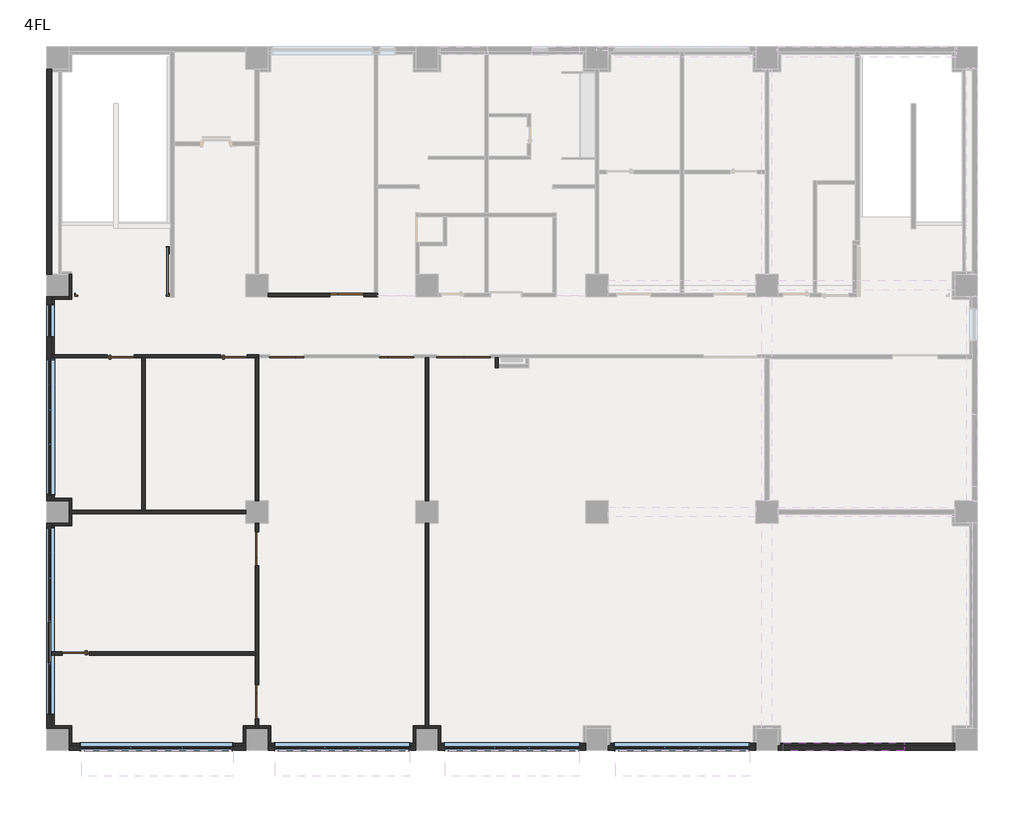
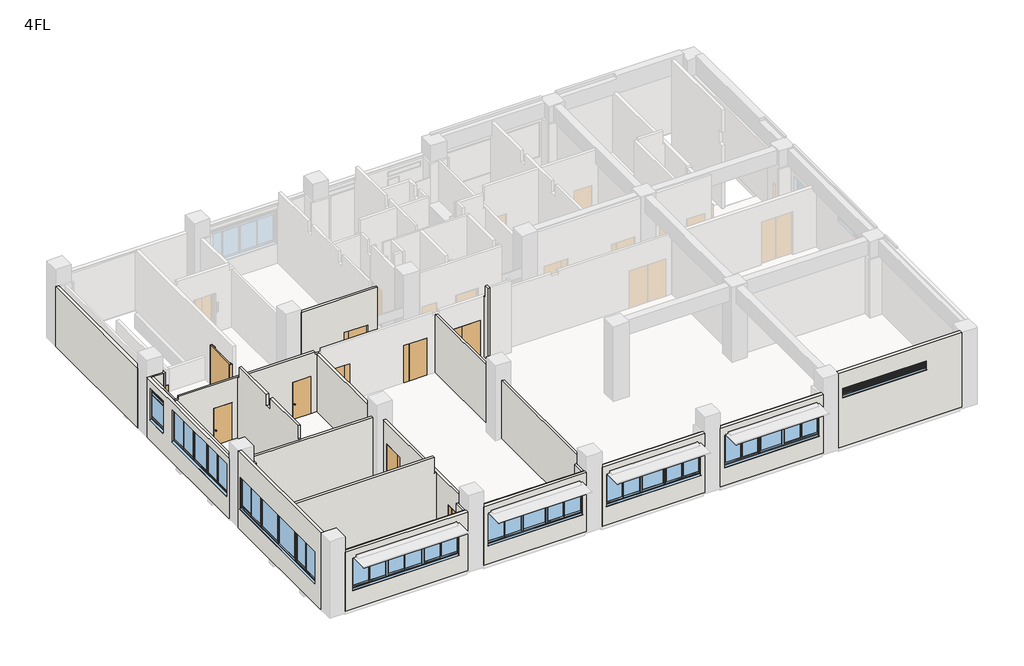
# One storey, part 1 of 5: 30 walls, 10 doors, 8 windows.
"""IFC4 building model written with IfcOpenShell, lengths in millimetres."""

from ifc_helpers import new_model, si_unit, frame, origin, place, context, project, spatial, polyline, outline, extrude, faceted_brep, transform, mapped, element, save
from components import door_0812e9ce, door_18b0804b, door_c235f466, door_2816d948, sd12_bd36843f, ag_02_89f51cda, aw1_ddd8473e, aw2_a9c71f60, aw3_4e8724e7, aw6a_a2a86f3e

model = new_model("IFC4")

# Units and contexts
model_context = context("Model", 3, world=origin())
ifc_project = project(units=[si_unit("LENGTHUNIT", "METRE", prefix="MILLI")], contexts=[model_context])

# Site, building, storey
site = spatial("IfcSite", under=ifc_project)
building = spatial("IfcBuilding", under=site)
storey = spatial("IfcBuildingStorey", under=building, Name="4FL", Elevation=12300.0)

# Doors
placement = place(None, origin())
door_shape = door_0812e9ce(model_context)
element("IfcDoor", 1, ObjectType="営_片開き扉 : LD3 950*2000", at=placement, inside=storey, context=model_context, shape_type="MappedRepresentation", body=[
    mapped(door_shape, transform((2185.0, 13500.0, 12300.0), x_axis=(1.0, 0.0, 0.0), y_axis=(0.0, 1.0, 0.0), z_axis=(0.0, 0.0, 1.0))),
])
element("IfcDoor", 2, ObjectType="営_片開き扉 : LD3 950*2000", at=placement, inside=storey, context=model_context, shape_type="MappedRepresentation", body=[
    mapped(door_shape, transform((6185.0, 13500.0, 12300.0), x_axis=(1.0, 0.0, 0.0), y_axis=(0.0, 1.0, 0.0), z_axis=(0.0, 0.0, 1.0))),
])
element("IfcDoor", 3, ObjectType="営_片開き扉 : LD3 950*2000", at=placement, inside=storey, context=model_context, shape_type="MappedRepresentation", body=[
    mapped(door_shape, transform((590.0, 3000.0, 12300.0), x_axis=(-1.0, 0.0, 0.0), y_axis=(0.0, -1.0, 0.0), z_axis=(0.0, 0.0, 1.0))),
])
door_2_shape = door_18b0804b(model_context)
element("IfcDoor", 4, ObjectType="営_親子扉 : LD2 1200*2000", at=placement, inside=storey, context=model_context, shape_type="MappedRepresentation", body=[
    mapped(door_2_shape, transform((8040.0, 13500.0, 12300.0), x_axis=(-1.0, 0.0, 0.0), y_axis=(0.0, -1.0, 0.0), z_axis=(0.0, 0.0, 1.0))),
])
element("IfcDoor", 5, ObjectType="営_親子扉 : LD2 1200*2000", at=placement, inside=storey, context=model_context, shape_type="MappedRepresentation", body=[
    mapped(door_2_shape, transform((10162.645491, 15665.0, 12300.0), x_axis=(1.0, 0.0, 0.0), y_axis=(0.0, 1.0, 0.0), z_axis=(0.0, 0.0, 1.0))),
])
door_3_shape = door_c235f466(model_context)
element("IfcDoor", 6, ObjectType="営_親子扉 : LD2 1200*2000", at=placement, inside=storey, context=model_context, shape_type="MappedRepresentation", body=[
    mapped(door_3_shape, transform((11925.0, 13500.0, 12300.0), x_axis=(1.0, 0.0, 0.0), y_axis=(0.0, 1.0, 0.0), z_axis=(0.0, 0.0, 1.0))),
])
element("IfcDoor", 7, ObjectType="営_親子扉 : LD2 1200*2000", at=placement, inside=storey, context=model_context, shape_type="MappedRepresentation", body=[
    mapped(door_3_shape, transform((7000.0, 1300.0, 12300.0), x_axis=(0.0, -1.0, 0.0), y_axis=(1.0, 0.0, 0.0), z_axis=(0.0, 0.0, 1.0))),
])
element("IfcDoor", 8, ObjectType="営_親子扉 : LD2 1200*2000", at=placement, inside=storey, context=model_context, shape_type="MappedRepresentation", body=[
    mapped(door_2_shape, transform((7000.0, 6700.0, 12300.0), x_axis=(0.0, 1.0, 0.0), y_axis=(-1.0, 0.0, 0.0), z_axis=(0.0, 0.0, 1.0))),
])
door_4_shape = door_2816d948(model_context)
element("IfcDoor", 9, ObjectType="営_両開き扉 : LD4 1900*2000", at=placement, inside=storey, context=model_context, shape_type="MappedRepresentation", body=[
    mapped(door_4_shape, transform((14290.0, 13500.0, 12300.0), x_axis=(-1.0, 0.0, 0.0), y_axis=(0.0, -1.0, 0.0), z_axis=(0.0, 0.0, 1.0))),
])
sd12_shape = sd12_bd36843f(model_context)
element("IfcDoor", 10, ObjectType="営_随閉扉 B階段 2～4F : SD12", at=placement, inside=storey, context=model_context, shape_type="MappedRepresentation", body=[
    mapped(sd12_shape, transform((4000.0, 15665.0, 12300.0), x_axis=(0.0, -1.0, 0.0), y_axis=(1.0, 0.0, 0.0), z_axis=(0.0, 0.0, 1.0))),
])

# Walls
element("IfcWall", 11, ObjectType="(外壁)RC150+20", at=placement, inside=storey, context=model_context, shape_type="Brep", body=[
    faceted_brep([(-250.0, 8395.0, 12200.0), (-250.0, 15605.0, 12200.0), (-250.0, 15605.0, 15400.0), (-250.0, 8395.0, 15400.0), (-250.0, 13410.0, 15020.0), (-250.0, 13410.0, 13365.0), (-250.0, 8590.0, 13365.0), (-250.0, 8590.0, 15020.0), (-250.0, 15345.0, 15020.0), (-250.0, 15345.0, 13365.0), (-250.0, 14165.0, 13365.0), (-250.0, 14165.0, 15020.0), (-420.0, 15605.0, 15400.0), (-420.0, 15605.0, 12200.0), (-420.0, 15580.0, 12200.0), (-420.0, 8420.0, 12200.0), (-420.0, 8395.0, 12200.0), (-420.0, 8395.0, 15400.0), (-420.0, 8620.0, 13275.0), (-420.0, 13380.0, 13275.0), (-420.0, 13380.0, 14995.0), (-420.0, 8620.0, 14995.0), (-420.0, 14195.0, 13275.0), (-420.0, 15315.0, 13275.0), (-420.0, 15315.0, 14995.0), (-420.0, 14195.0, 14995.0), (-290.0, 13410.0, 15020.0), (-290.0, 13410.0, 13365.0), (-290.0, 8590.0, 13365.0), (-290.0, 8590.0, 15020.0), (-290.0, 13400.0, 13365.0), (-290.0, 8600.0, 13365.0), (-290.0, 8600.0, 15015.0), (-290.0, 13400.0, 15015.0), (-360.0, 13400.0, 15015.0), (-360.0, 13400.0, 13284.2307692), (-290.0, 13400.0, 13295.0), (-290.0, 8600.0, 13295.0), (-360.0, 8600.0, 13284.2307692), (-360.0, 8600.0, 15015.0), (-360.0, 13380.0, 13284.2307692), (-360.0, 8620.0, 13284.2307692), (-360.0, 8620.0, 14995.0), (-360.0, 13380.0, 14995.0), (-290.0, 15345.0, 15020.0), (-290.0, 15345.0, 13365.0), (-290.0, 14165.0, 13365.0), (-290.0, 14165.0, 15020.0), (-290.0, 15335.0, 13365.0), (-290.0, 14175.0, 13365.0), (-290.0, 14175.0, 15015.0), (-290.0, 15335.0, 15015.0), (-360.0, 15335.0, 15015.0), (-360.0, 15335.0, 13284.2307692), (-290.0, 15335.0, 13295.0), (-290.0, 14175.0, 13295.0), (-360.0, 14175.0, 13284.2307692), (-360.0, 14175.0, 15015.0), (-360.0, 15315.0, 13284.2307692), (-360.0, 14195.0, 13284.2307692), (-360.0, 14195.0, 14995.0), (-360.0, 15315.0, 14995.0)], [[[0, 1, 2, 3], [4, 5, 6, 7], [8, 9, 10, 11]], [[12, 13, 14, 15, 16, 17], [18, 19, 20, 21], [22, 23, 24, 25]], [[0, 16, 15, 14, 13, 1]], [[26, 27, 5, 4]], [[28, 29, 7, 6]], [[5, 27, 30, 31, 28, 6]], [[27, 26, 29, 28, 31, 32, 33, 30]], [[26, 4, 7, 29]], [[30, 33, 34, 35, 36]], [[32, 31, 37, 38, 39]], [[36, 35, 40, 19, 18, 41, 38, 37]], [[35, 34, 39, 38, 41, 42, 43, 40]], [[33, 32, 39, 34]], [[31, 30, 36, 37]], [[19, 40, 43, 20]], [[41, 18, 21, 42]], [[43, 42, 21, 20]], [[44, 45, 9, 8]], [[46, 47, 11, 10]], [[9, 45, 48, 49, 46, 10]], [[45, 44, 47, 46, 49, 50, 51, 48]], [[44, 8, 11, 47]], [[48, 51, 52, 53, 54]], [[50, 49, 55, 56, 57]], [[54, 53, 58, 23, 22, 59, 56, 55]], [[53, 52, 57, 56, 59, 60, 61, 58]], [[51, 50, 57, 52]], [[49, 48, 54, 55]], [[23, 58, 61, 24]], [[59, 22, 25, 60]], [[61, 60, 25, 24]], [[16, 0, 3, 17]], [[1, 13, 12, 2]], [[3, 2, 12, 17]]]),
    faceted_brep([(-250.0, 16395.0, 12200.0), (-250.0, 23630.0, 12200.0), (-250.0, 23630.0, 15400.0), (-250.0, 16395.0, 15400.0), (-420.0, 23630.0, 12200.0), (-420.0, 23580.0, 12200.0), (-420.0, 16420.0, 12200.0), (-420.0, 16395.0, 12200.0), (-420.0, 16395.0, 15400.0), (-420.0, 23630.0, 15400.0)], [[[0, 1, 2, 3]], [[4, 5, 6, 7, 8, 9]], [[0, 7, 6, 5, 4, 1]], [[7, 0, 3, 8]], [[1, 4, 9, 2]], [[3, 2, 9, 8]]]),
    faceted_brep([(-250.0, 370.0, 16300.0), (-250.0, 370.0, 16240.0), (-250.0, 370.0, 15400.0), (-250.0, 370.0, 12200.0), (-250.0, 7605.0, 12200.0), (-250.0, 7605.0, 15400.0), (-250.0, 7605.0, 16240.0), (-250.0, 7605.0, 16300.0), (-250.0, 7465.0, 15020.0), (-250.0, 7465.0, 13365.0), (-250.0, 835.0, 13365.0), (-250.0, 835.0, 15020.0), (-420.0, 7605.0, 16300.0), (-420.0, 7605.0, 12200.0), (-420.0, 7580.0, 12200.0), (-420.0, 420.0, 12200.0), (-420.0, 370.0, 12200.0), (-420.0, 370.0, 16300.0), (-420.0, 865.0, 13275.0), (-420.0, 7435.0, 13275.0), (-420.0, 7435.0, 14995.0), (-420.0, 865.0, 14995.0), (-290.0, 7465.0, 15020.0), (-290.0, 7465.0, 13365.0), (-290.0, 835.0, 13365.0), (-290.0, 835.0, 15020.0), (-290.0, 7455.0, 13365.0), (-290.0, 845.0, 13365.0), (-290.0, 845.0, 15015.0), (-290.0, 7455.0, 15015.0), (-360.0, 7455.0, 15015.0), (-360.0, 7455.0, 13284.2307692), (-290.0, 7455.0, 13295.0), (-290.0, 845.0, 13295.0), (-360.0, 845.0, 13284.2307692), (-360.0, 845.0, 15015.0), (-360.0, 7435.0, 13284.2307692), (-360.0, 865.0, 13284.2307692), (-360.0, 865.0, 14995.0), (-360.0, 7435.0, 14995.0)], [[[0, 1, 2, 3, 4, 5, 6, 7], [8, 9, 10, 11]], [[12, 13, 14, 15, 16, 17], [18, 19, 20, 21]], [[3, 16, 15, 14, 13, 4]], [[17, 0, 7, 12]], [[22, 23, 9, 8]], [[24, 25, 11, 10]], [[9, 23, 26, 27, 24, 10]], [[23, 22, 25, 24, 27, 28, 29, 26]], [[22, 8, 11, 25]], [[26, 29, 30, 31, 32]], [[28, 27, 33, 34, 35]], [[32, 31, 36, 19, 18, 37, 34, 33]], [[31, 30, 35, 34, 37, 38, 39, 36]], [[29, 28, 35, 30]], [[27, 26, 32, 33]], [[19, 36, 39, 20]], [[37, 18, 21, 38]], [[39, 38, 21, 20]], [[3, 2, 1, 0, 17, 16]], [[7, 6, 5, 4, 13, 12]]]),
])
element("IfcWall", 12, ObjectType="(外壁)RC150+20", at=placement, inside=storey, context=model_context, shape_type="Brep", body=[
    faceted_brep([(12605.0, -250.0, 12300.0), (7395.0, -250.0, 12300.0), (7395.0, -250.0, 15450.0), (12605.0, -250.0, 15450.0), (7590.0, -250.0, 15020.0), (7590.0, -250.0, 13365.0), (12410.0, -250.0, 13365.0), (12410.0, -250.0, 15020.0), (7395.0, -420.0, 12300.0), (12605.0, -420.0, 12300.0), (12605.0, -420.0, 15450.0), (7395.0, -420.0, 15450.0), (12380.0, -420.0, 13275.0), (7620.0, -420.0, 13275.0), (7620.0, -420.0, 14995.0), (12380.0, -420.0, 14995.0), (7590.0, -290.0, 15020.0), (7590.0, -290.0, 13365.0), (12410.0, -290.0, 13365.0), (12410.0, -290.0, 15020.0), (7600.0, -290.0, 13365.0), (12400.0, -290.0, 13365.0), (12400.0, -290.0, 15015.0), (7600.0, -290.0, 15015.0), (7600.0, -360.0, 15015.0), (7600.0, -360.0, 13284.2307692), (7600.0, -290.0, 13295.0), (12400.0, -290.0, 13295.0), (12400.0, -360.0, 13284.2307692), (12400.0, -360.0, 15015.0), (7620.0, -360.0, 13284.2307692), (12380.0, -360.0, 13284.2307692), (12380.0, -360.0, 14995.0), (7620.0, -360.0, 14995.0)], [[[0, 1, 2, 3], [4, 5, 6, 7]], [[8, 9, 10, 11], [12, 13, 14, 15]], [[8, 1, 0, 9]], [[1, 8, 11, 2]], [[9, 0, 3, 10]], [[3, 2, 11, 10]], [[16, 17, 5, 4]], [[18, 19, 7, 6]], [[5, 17, 20, 21, 18, 6]], [[17, 16, 19, 18, 21, 22, 23, 20]], [[16, 4, 7, 19]], [[20, 23, 24, 25, 26]], [[22, 21, 27, 28, 29]], [[26, 25, 30, 13, 12, 31, 28, 27]], [[25, 24, 29, 28, 31, 32, 33, 30]], [[23, 22, 29, 24]], [[21, 20, 26, 27]], [[13, 30, 33, 14]], [[31, 12, 15, 32]], [[33, 32, 15, 14]]]),
    faceted_brep([(18605.0, -250.0, 12300.0), (13395.0, -250.0, 12300.0), (13395.0, -250.0, 15450.0), (18605.0, -250.0, 15450.0), (13590.0, -250.0, 15020.0), (13590.0, -250.0, 13365.0), (18410.0, -250.0, 13365.0), (18410.0, -250.0, 15020.0), (13395.0, -420.0, 12300.0), (18605.0, -420.0, 12300.0), (18605.0, -420.0, 15450.0), (13395.0, -420.0, 15450.0), (18380.0, -420.0, 13275.0), (13620.0, -420.0, 13275.0), (13620.0, -420.0, 14995.0), (18380.0, -420.0, 14995.0), (13590.0, -290.0, 15020.0), (13590.0, -290.0, 13365.0), (18410.0, -290.0, 13365.0), (18410.0, -290.0, 15020.0), (13600.0, -290.0, 13365.0), (18400.0, -290.0, 13365.0), (18400.0, -290.0, 15015.0), (13600.0, -290.0, 15015.0), (13600.0, -360.0, 15015.0), (13600.0, -360.0, 13284.2307692), (13600.0, -290.0, 13295.0), (18400.0, -290.0, 13295.0), (18400.0, -360.0, 13284.2307692), (18400.0, -360.0, 15015.0), (13620.0, -360.0, 13284.2307692), (18380.0, -360.0, 13284.2307692), (18380.0, -360.0, 14995.0), (13620.0, -360.0, 14995.0)], [[[0, 1, 2, 3], [4, 5, 6, 7]], [[8, 9, 10, 11], [12, 13, 14, 15]], [[8, 1, 0, 9]], [[1, 8, 11, 2]], [[9, 0, 3, 10]], [[3, 2, 11, 10]], [[16, 17, 5, 4]], [[18, 19, 7, 6]], [[5, 17, 20, 21, 18, 6]], [[17, 16, 19, 18, 21, 22, 23, 20]], [[16, 4, 7, 19]], [[20, 23, 24, 25, 26]], [[22, 21, 27, 28, 29]], [[26, 25, 30, 13, 12, 31, 28, 27]], [[25, 24, 29, 28, 31, 32, 33, 30]], [[23, 22, 29, 24]], [[21, 20, 26, 27]], [[13, 30, 33, 14]], [[31, 12, 15, 32]], [[33, 32, 15, 14]]]),
    faceted_brep([(24605.0, -250.0, 12300.0), (19395.0, -250.0, 12300.0), (19395.0, -250.0, 15450.0), (24605.0, -250.0, 15450.0), (19590.0, -250.0, 15020.0), (19590.0, -250.0, 13365.0), (24410.0, -250.0, 13365.0), (24410.0, -250.0, 15020.0), (19395.0, -420.0, 12300.0), (24605.0, -420.0, 12300.0), (24605.0, -420.0, 15450.0), (19395.0, -420.0, 15450.0), (24380.0, -420.0, 13275.0), (19620.0, -420.0, 13275.0), (19620.0, -420.0, 14995.0), (24380.0, -420.0, 14995.0), (19590.0, -290.0, 15020.0), (19590.0, -290.0, 13365.0), (24410.0, -290.0, 13365.0), (24410.0, -290.0, 15020.0), (19600.0, -290.0, 13365.0), (24400.0, -290.0, 13365.0), (24400.0, -290.0, 15015.0), (19600.0, -290.0, 15015.0), (19600.0, -360.0, 15015.0), (19600.0, -360.0, 13284.2307692), (19600.0, -290.0, 13295.0), (24400.0, -290.0, 13295.0), (24400.0, -360.0, 13284.2307692), (24400.0, -360.0, 15015.0), (19620.0, -360.0, 13284.2307692), (24380.0, -360.0, 13284.2307692), (24380.0, -360.0, 14995.0), (19620.0, -360.0, 14995.0)], [[[0, 1, 2, 3], [4, 5, 6, 7]], [[8, 9, 10, 11], [12, 13, 14, 15]], [[8, 1, 0, 9]], [[16, 17, 5, 4]], [[18, 19, 7, 6]], [[5, 17, 20, 21, 18, 6]], [[17, 16, 19, 18, 21, 22, 23, 20]], [[16, 4, 7, 19]], [[20, 23, 24, 25, 26]], [[22, 21, 27, 28, 29]], [[26, 25, 30, 13, 12, 31, 28, 27]], [[25, 24, 29, 28, 31, 32, 33, 30]], [[23, 22, 29, 24]], [[21, 20, 26, 27]], [[13, 30, 33, 14]], [[31, 12, 15, 32]], [[33, 32, 15, 14]], [[1, 8, 11, 2]], [[9, 0, 3, 10]], [[3, 2, 11, 10]]]),
    faceted_brep([(6605.0, -250.0, 12300.0), (370.0, -250.0, 12300.0), (370.0, -250.0, 15450.0), (6605.0, -250.0, 15450.0), (732.5, -250.0, 15020.0), (732.5, -250.0, 13365.0), (6157.5, -250.0, 13365.0), (6157.5, -250.0, 15020.0), (6605.0, -420.0, 12300.0), (6605.0, -420.0, 15450.0), (370.0, -420.0, 15450.0), (370.0, -420.0, 12300.0), (6127.5, -420.0, 13275.0), (762.5, -420.0, 13275.0), (762.5, -420.0, 14995.0), (6127.5, -420.0, 14995.0), (732.5, -290.0, 15020.0), (732.5, -290.0, 13365.0), (6157.5, -290.0, 13365.0), (6157.5, -290.0, 15020.0), (742.5, -290.0, 13365.0), (6147.5, -290.0, 13365.0), (6147.5, -290.0, 15015.0), (742.5, -290.0, 15015.0), (742.5, -360.0, 15015.0), (742.5, -360.0, 13284.2307692), (742.5, -290.0, 13295.0), (6147.5, -290.0, 13295.0), (6147.5, -360.0, 13284.2307692), (6147.5, -360.0, 15015.0), (762.5, -360.0, 13284.2307692), (6127.5, -360.0, 13284.2307692), (6127.5, -360.0, 14995.0), (762.5, -360.0, 14995.0)], [[[0, 1, 2, 3], [4, 5, 6, 7]], [[8, 9, 10, 11], [12, 13, 14, 15]], [[0, 8, 11, 1]], [[16, 17, 5, 4]], [[18, 19, 7, 6]], [[5, 17, 20, 21, 18, 6]], [[17, 16, 19, 18, 21, 22, 23, 20]], [[16, 4, 7, 19]], [[20, 23, 24, 25, 26]], [[22, 21, 27, 28, 29]], [[26, 25, 30, 13, 12, 31, 28, 27]], [[25, 24, 29, 28, 31, 32, 33, 30]], [[23, 22, 29, 24]], [[21, 20, 26, 27]], [[13, 30, 33, 14]], [[31, 12, 15, 32]], [[33, 32, 15, 14]], [[8, 0, 3, 9]], [[1, 11, 10, 2]], [[3, 2, 10, 9]]]),
    faceted_brep([(25395.0, -250.0, 12300.0), (25395.0, -250.0, 15450.0), (25395.0, -250.0, 16240.0), (25395.0, -250.0, 16300.0), (31630.0, -250.0, 16300.0), (31630.0, -250.0, 16240.0), (31630.0, -250.0, 15450.0), (31630.0, -250.0, 12300.0), (25572.7, -250.0, 15435.0), (25572.7, -250.0, 15015.0), (29852.7, -250.0, 15015.0), (29852.7, -250.0, 15435.0), (25395.0, -420.0, 16300.0), (25395.0, -420.0, 12300.0), (31630.0, -420.0, 12300.0), (31630.0, -420.0, 16300.0), (29822.7, -420.0, 14925.0), (25602.7, -420.0, 14925.0), (25602.7, -420.0, 15410.0), (29822.7, -420.0, 15410.0), (25572.7, -290.0, 15435.0), (25572.7, -290.0, 15015.0), (29852.7, -290.0, 15015.0), (29852.7, -290.0, 15435.0), (25582.7, -290.0, 15015.0), (29842.7, -290.0, 15015.0), (29842.7, -290.0, 15430.0), (25582.7, -290.0, 15430.0), (25582.7, -360.0, 15430.0), (25582.7, -360.0, 14934.2307692), (25582.7, -290.0, 14945.0), (29842.7, -290.0, 14945.0), (29842.7, -360.0, 14934.2307692), (29842.7, -360.0, 15430.0), (25602.7, -360.0, 14934.2307692), (29822.7, -360.0, 14934.2307692), (29822.7, -360.0, 15410.0), (25602.7, -360.0, 15410.0)], [[[0, 1, 2, 3, 4, 5, 6, 7], [8, 9, 10, 11]], [[12, 13, 14, 15], [16, 17, 18, 19]], [[13, 0, 7, 14]], [[3, 12, 15, 4]], [[3, 2, 1, 0, 13, 12]], [[7, 6, 5, 4, 15, 14]], [[20, 21, 9, 8]], [[22, 23, 11, 10]], [[9, 21, 24, 25, 22, 10]], [[21, 20, 23, 22, 25, 26, 27, 24]], [[20, 8, 11, 23]], [[24, 27, 28, 29, 30]], [[26, 25, 31, 32, 33]], [[30, 29, 34, 17, 16, 35, 32, 31]], [[29, 28, 33, 32, 35, 36, 37, 34]], [[27, 26, 33, 28]], [[25, 24, 30, 31]], [[17, 34, 37, 18]], [[35, 16, 19, 36]], [[37, 36, 19, 18]]]),
])
element("IfcWall", 13, ObjectType="(内壁)W4", at=placement, inside=storey, context=model_context, shape_type="Brep", body=[
    faceted_brep([(1710.0, 13440.0, 12300.0), (1710.0, 13440.0, 14300.0), (2660.0, 13440.0, 14300.0), (2660.0, 13440.0, 12300.0), (2930.0, 13440.0, 12300.0), (3050.0, 13440.0, 12300.0), (5710.0, 13440.0, 12300.0), (5710.0, 13440.0, 14300.0), (6660.0, 13440.0, 14300.0), (6660.0, 13440.0, 12300.0), (6940.0, 13440.0, 12300.0), (7050.0, 13440.0, 12300.0), (7050.0, 13440.0, 15400.0), (6940.0, 13440.0, 15400.0), (6825.0, 13440.0, 15400.0), (6825.0, 13440.0, 15550.0), (3050.0, 13440.0, 15550.0), (2930.0, 13440.0, 15550.0), (-50.0, 13440.0, 15550.0), (-50.0, 13440.0, 15400.0), (-160.0, 13440.0, 15400.0), (-250.0, 13440.0, 15400.0), (-250.0, 13440.0, 12300.0), (-160.0, 13440.0, 12300.0), (1710.0, 13560.0, 14300.0), (1710.0, 13560.0, 12300.0), (-160.0, 13560.0, 12300.0), (-250.0, 13560.0, 12300.0), (-250.0, 13560.0, 15400.0), (-160.0, 13560.0, 15400.0), (-50.0, 13560.0, 15400.0), (-50.0, 13560.0, 15550.0), (6825.0, 13560.0, 15550.0), (6825.0, 13560.0, 15400.0), (7050.0, 13560.0, 15400.0), (7050.0, 13560.0, 12300.0), (6660.0, 13560.0, 12300.0), (6660.0, 13560.0, 14300.0), (5710.0, 13560.0, 14300.0), (5710.0, 13560.0, 12300.0), (2660.0, 13560.0, 12300.0), (2660.0, 13560.0, 14300.0)], [[[0, 1, 2, 3, 4, 5, 6, 7, 8, 9, 10, 11, 12, 13, 14, 15, 16, 17, 18, 19, 20, 21, 22, 23]], [[24, 25, 26, 27, 28, 29, 30, 31, 32, 33, 34, 35, 36, 37, 38, 39, 40, 41]], [[3, 40, 39, 6, 5, 4]], [[35, 11, 10, 9, 36]], [[22, 27, 26, 25, 0, 23]], [[11, 35, 34, 12]], [[31, 18, 17, 16, 15, 32]], [[27, 22, 21, 28]], [[25, 24, 1, 0]], [[41, 40, 3, 2]], [[24, 41, 2, 1]], [[39, 38, 7, 6]], [[37, 36, 9, 8]], [[38, 37, 8, 7]], [[30, 19, 18, 31]], [[19, 30, 29, 28, 21, 20]], [[33, 14, 13, 12, 34]], [[14, 33, 32, 15]]]),
])
element("IfcWall", 14, ObjectType="(内壁)W3", at=placement, inside=storey, context=model_context, shape_type="Brep", body=[
    faceted_brep([(13060.0, 8395.0, 12300.0), (13060.0, 13440.0, 12300.0), (13060.0, 13440.0, 15400.0), (13060.0, 8395.0, 15400.0), (12940.0, 13440.0, 12300.0), (12940.0, 8395.0, 12300.0), (12940.0, 8395.0, 15400.0), (12940.0, 13440.0, 15400.0)], [[[0, 1, 2, 3]], [[4, 5, 6, 7]], [[4, 1, 0, 5]], [[1, 4, 7, 2]], [[5, 0, 3, 6]], [[3, 2, 7, 6]]]),
    faceted_brep([(13060.0, 370.0, 12300.0), (13060.0, 460.0, 12300.0), (13060.0, 7605.0, 12300.0), (13060.0, 7605.0, 15400.0), (13060.0, 460.0, 15400.0), (13060.0, 370.0, 15400.0), (12940.0, 7605.0, 12300.0), (12940.0, 460.0, 12300.0), (12940.0, 370.0, 12300.0), (12940.0, 370.0, 15400.0), (12940.0, 460.0, 15400.0), (12940.0, 7605.0, 15400.0)], [[[0, 1, 2, 3, 4, 5]], [[6, 7, 8, 9, 10, 11]], [[0, 8, 7, 6, 2, 1]], [[8, 0, 5, 9]], [[2, 6, 11, 3]], [[5, 4, 3, 11, 10, 9]]]),
])
element("IfcWall", 15, ObjectType="(内壁)W4", at=placement, inside=storey, context=model_context, shape_type="Brep", body=[
    faceted_brep([(370.0, 7940.0, 12300.0), (460.0, 7940.0, 12300.0), (6605.0, 7940.0, 12300.0), (6605.0, 7940.0, 15450.0), (370.0, 7940.0, 15450.0), (370.0, 7940.0, 15400.0), (6605.0, 8060.0, 12300.0), (3050.0, 8060.0, 12300.0), (2930.0, 8060.0, 12300.0), (460.0, 8060.0, 12300.0), (370.0, 8060.0, 12300.0), (370.0, 8060.0, 15400.0), (370.0, 8060.0, 15450.0), (2930.0, 8060.0, 15450.0), (3050.0, 8060.0, 15450.0), (6605.0, 8060.0, 15450.0)], [[[0, 1, 2, 3, 4, 5]], [[6, 7, 8, 9, 10, 11, 12, 13, 14, 15]], [[6, 2, 1, 0, 10, 9, 8, 7]], [[2, 6, 15, 3]], [[10, 0, 5, 4, 12, 11]], [[4, 3, 15, 14, 13, 12]]]),
])
element("IfcWall", 16, ObjectType="(内壁)W4", at=placement, inside=storey, context=model_context, shape_type="SweptSolid", body=[
    extrude(outline(polyline([(13440.0, 12300.0), (8060.0, 12300.0), (8060.0, 15450.0), (8175.0, 15450.0), (8175.0, 16150.0), (10575.0, 16150.0), (10575.0, 15550.0), (10925.0, 15550.0), (10925.0, 16150.0), (13325.0, 16150.0), (13325.0, 15550.0), (13440.0, 15550.0), (13440.0, 12300.0)])), frame((2930.0, 0.0, 0.0), z_axis=(1.0, 0.0, 0.0), x_axis=(0.0, 1.0, 0.0)), (0.0, 0.0, 1.0), 120.0),
])
element("IfcWall", 17, ObjectType="(内壁)W4", at=placement, inside=storey, context=model_context, shape_type="SweptSolid", body=[
    extrude(outline(polyline([(16250.0, -250.0), (12300.0, -250.0), (12300.0, 115.0), (14300.0, 115.0), (14300.0, 1065.0), (12300.0, 1065.0), (12300.0, 6940.0), (15400.0, 6940.0), (15400.0, 6825.0), (16250.0, 6825.0), (16250.0, -250.0)])), frame((0.0, 2940.0, 0.0), z_axis=(0.0, 1.0, 0.0), x_axis=(0.0, 0.0, 1.0)), (0.0, 0.0, 1.0), 120.0),
])
element("IfcWall", 18, ObjectType="(内壁)W4", at=placement, inside=storey, context=model_context, shape_type="Brep", body=[
    faceted_brep([(6940.0, 6100.0, 14300.0), (6940.0, 6100.0, 12300.0), (6940.0, 3060.0, 12300.0), (6940.0, 2940.0, 12300.0), (6940.0, 1900.0, 12300.0), (6940.0, 1900.0, 14300.0), (6940.0, 700.0, 14300.0), (6940.0, 700.0, 12300.0), (6940.0, 460.0, 12300.0), (6940.0, 370.0, 12300.0), (6940.0, 370.0, 15400.0), (6940.0, 460.0, 15400.0), (6940.0, 2940.0, 15400.0), (6940.0, 3060.0, 15400.0), (6940.0, 7605.0, 15400.0), (6940.0, 7605.0, 12300.0), (6940.0, 7300.0, 12300.0), (6940.0, 7300.0, 14300.0), (7060.0, 6100.0, 12300.0), (7060.0, 6100.0, 14300.0), (7060.0, 7300.0, 14300.0), (7060.0, 7300.0, 12300.0), (7060.0, 7605.0, 12300.0), (7060.0, 7605.0, 15400.0), (7060.0, 460.0, 15400.0), (7060.0, 370.0, 15400.0), (7060.0, 370.0, 12300.0), (7060.0, 460.0, 12300.0), (7060.0, 700.0, 12300.0), (7060.0, 700.0, 14300.0), (7060.0, 1900.0, 14300.0), (7060.0, 1900.0, 12300.0)], [[[0, 1, 2, 3, 4, 5, 6, 7, 8, 9, 10, 11, 12, 13, 14, 15, 16, 17]], [[18, 19, 20, 21, 22, 23, 24, 25, 26, 27, 28, 29, 30, 31]], [[1, 18, 31, 4, 3, 2]], [[21, 16, 15, 22]], [[7, 28, 27, 26, 9, 8]], [[1, 0, 19, 18]], [[17, 16, 21, 20]], [[0, 17, 20, 19]], [[31, 30, 5, 4]], [[29, 28, 7, 6]], [[30, 29, 6, 5]], [[9, 26, 25, 10]], [[22, 15, 14, 23]], [[14, 13, 12, 11, 10, 25, 24, 23]]]),
    faceted_brep([(6940.0, 13440.0, 12300.0), (6940.0, 8395.0, 12300.0), (6940.0, 8395.0, 15400.0), (6940.0, 13440.0, 15400.0), (7060.0, 8395.0, 12300.0), (7060.0, 13440.0, 12300.0), (7060.0, 13440.0, 15400.0), (7060.0, 8395.0, 15400.0), (7050.0, 13440.0, 12300.0), (7050.0, 13440.0, 15400.0)], [[[0, 1, 2, 3]], [[4, 5, 6, 7]], [[0, 8, 5, 4, 1]], [[5, 8, 0, 3, 9, 6]], [[1, 4, 7, 2]], [[3, 2, 7, 6, 9]]]),
])
element("IfcWall", 19, ObjectType="(内壁)W3", at=placement, inside=storey, context=model_context, shape_type="Brep", body=[
    faceted_brep([(10762.645491, 15725.0, 14300.0), (9562.645491, 15725.0, 14300.0), (9562.645491, 15725.0, 12300.0), (7395.0, 15725.0, 12300.0), (7395.0, 15725.0, 16150.0), (11140.0, 15725.0, 16150.0), (11260.0, 15725.0, 16150.0), (11260.0, 15725.0, 12300.0), (11140.0, 15725.0, 12300.0), (10762.645491, 15725.0, 12300.0), (9562.645491, 15605.0, 14300.0), (10762.645491, 15605.0, 14300.0), (10762.645491, 15605.0, 12300.0), (11260.0, 15605.0, 12300.0), (11260.0, 15605.0, 16150.0), (7395.0, 15605.0, 16150.0), (7395.0, 15605.0, 12300.0), (9562.645491, 15605.0, 12300.0)], [[[0, 1, 2, 3, 4, 5, 6, 7, 8, 9]], [[10, 11, 12, 13, 14, 15, 16, 17]], [[12, 9, 8, 7, 13]], [[2, 17, 16, 3]], [[14, 6, 5, 4, 15]], [[1, 0, 11, 10]], [[0, 9, 12, 11]], [[2, 1, 10, 17]], [[4, 3, 16, 15]], [[7, 6, 14, 13]]]),
])
element("IfcWall", 20, ObjectType="(内壁)W5", at=placement, inside=storey, context=model_context, shape_type="Brep", body=[
    faceted_brep([(370.0, 16395.0, 12300.0), (370.0, 15605.0, 12300.0), (370.0, 15515.0, 12300.0), (370.0, 15515.0, 15400.0), (370.0, 15605.0, 15400.0), (370.0, 16395.0, 15400.0), (460.0, 16395.0, 12300.0), (460.0, 16395.0, 15400.0), (460.0, 15515.0, 15400.0), (460.0, 15515.0, 12300.0)], [[[0, 1, 2, 3, 4, 5]], [[6, 7, 8, 9]], [[2, 1, 0, 6, 9]], [[5, 4, 3, 8, 7]], [[0, 5, 7, 6]], [[3, 2, 9, 8]]]),
])
element("IfcWall", 21, ObjectType="(内壁)W5", at=placement, inside=storey, context=model_context, shape_type="Brep", body=[
    faceted_brep([(370.0, 15605.0, 12300.0), (-250.0, 15605.0, 12300.0), (-250.0, 15605.0, 15400.0), (370.0, 15605.0, 15400.0), (370.0, 15515.0, 12300.0), (370.0, 15515.0, 15400.0), (-160.0, 15515.0, 15400.0), (-250.0, 15515.0, 15400.0), (-250.0, 15515.0, 12300.0)], [[[0, 1, 2, 3]], [[4, 5, 6, 7, 8]], [[1, 0, 4, 8]], [[3, 2, 7, 6, 5]], [[0, 3, 5, 4]], [[2, 1, 8, 7]]]),
])
element("IfcWall", 22, ObjectType="(内壁)W5", at=placement, inside=storey, context=model_context, shape_type="Brep", body=[
    faceted_brep([(-250.0, 15515.0, 12200.0), (-250.0, 8395.0, 12200.0), (-250.0, 8395.0, 15400.0), (-250.0, 13440.0, 15400.0), (-250.0, 13440.0, 12300.0), (-250.0, 13560.0, 12300.0), (-250.0, 13560.0, 15400.0), (-250.0, 15515.0, 15400.0), (-250.0, 15515.0, 12300.0), (-250.0, 15345.0, 13365.0), (-250.0, 15345.0, 15020.0), (-250.0, 14165.0, 15020.0), (-250.0, 14165.0, 13365.0), (-250.0, 13410.0, 13365.0), (-250.0, 13410.0, 15020.0), (-250.0, 8590.0, 15020.0), (-250.0, 8590.0, 13365.0), (-160.0, 8395.0, 12200.0), (-160.0, 8485.0, 12200.0), (-160.0, 15515.0, 12200.0), (-160.0, 15515.0, 15400.0), (-160.0, 13560.0, 15400.0), (-160.0, 13560.0, 12300.0), (-160.0, 13440.0, 12300.0), (-160.0, 13440.0, 15400.0), (-160.0, 8485.0, 15400.0), (-160.0, 8395.0, 15400.0), (-160.0, 15345.0, 15020.0), (-160.0, 15345.0, 13365.0), (-160.0, 14165.0, 13365.0), (-160.0, 14165.0, 15020.0), (-160.0, 13410.0, 15020.0), (-160.0, 13410.0, 13365.0), (-160.0, 8590.0, 13365.0), (-160.0, 8590.0, 15020.0)], [[[0, 1, 2, 3, 4, 5, 6, 7, 8], [9, 10, 11, 12], [13, 14, 15, 16]], [[17, 18, 19, 20, 21, 22, 23, 24, 25, 26], [27, 28, 29, 30], [31, 32, 33, 34]], [[1, 0, 19, 18, 17]], [[20, 7, 6, 21]], [[2, 26, 25, 24, 3]], [[0, 8, 7, 20, 19]], [[2, 1, 17, 26]], [[27, 10, 9, 28]], [[29, 12, 11, 30]], [[28, 9, 12, 29]], [[10, 27, 30, 11]], [[23, 4, 3, 24]], [[5, 22, 21, 6]], [[4, 23, 22, 5]], [[31, 14, 13, 32]], [[33, 16, 15, 34]], [[16, 33, 32, 13]], [[34, 15, 14, 31]]]),
])
element("IfcWall", 23, ObjectType="(内壁)W5", at=placement, inside=storey, context=model_context, shape_type="Brep", body=[
    faceted_brep([(-160.0, 8395.0, 12200.0), (370.0, 8395.0, 12200.0), (460.0, 8395.0, 12200.0), (460.0, 8395.0, 15400.0), (370.0, 8395.0, 15400.0), (-160.0, 8395.0, 15400.0), (-160.0, 8485.0, 12200.0), (-160.0, 8485.0, 15400.0), (460.0, 8485.0, 15400.0), (460.0, 8485.0, 12200.0)], [[[0, 1, 2, 3, 4, 5]], [[6, 7, 8, 9]], [[2, 1, 0, 6, 9]], [[5, 4, 3, 8, 7]], [[0, 5, 7, 6]], [[3, 2, 9, 8]]]),
])
element("IfcWall", 24, ObjectType="(内壁)W5", at=placement, inside=storey, context=model_context, shape_type="Brep", body=[
    faceted_brep([(370.0, 8395.0, 12200.0), (370.0, 7605.0, 12200.0), (370.0, 7515.0, 12200.0), (370.0, 7515.0, 15400.0), (370.0, 7605.0, 15400.0), (370.0, 7940.0, 15400.0), (370.0, 7940.0, 12300.0), (370.0, 8060.0, 12300.0), (370.0, 8060.0, 15400.0), (370.0, 8395.0, 15400.0), (460.0, 7515.0, 12200.0), (460.0, 8395.0, 12200.0), (460.0, 8395.0, 15400.0), (460.0, 8060.0, 15400.0), (460.0, 8060.0, 12300.0), (460.0, 7940.0, 12300.0), (460.0, 7940.0, 15400.0), (460.0, 7515.0, 15400.0)], [[[0, 1, 2, 3, 4, 5, 6, 7, 8, 9]], [[10, 11, 12, 13, 14, 15, 16, 17]], [[2, 1, 0, 11, 10]], [[12, 9, 8, 13]], [[3, 17, 16, 5, 4]], [[0, 9, 12, 11]], [[3, 2, 10, 17]], [[15, 6, 5, 16]], [[7, 14, 13, 8]], [[6, 15, 14, 7]]]),
])
element("IfcWall", 25, ObjectType="(内壁)W5", at=placement, inside=storey, context=model_context, shape_type="Brep", body=[
    faceted_brep([(370.0, 7605.0, 12200.0), (-250.0, 7605.0, 12200.0), (-250.0, 7605.0, 15400.0), (370.0, 7605.0, 15400.0), (370.0, 7515.0, 12200.0), (370.0, 7515.0, 15400.0), (-160.0, 7515.0, 15400.0), (-250.0, 7515.0, 15400.0), (-250.0, 7515.0, 12200.0), (-160.0, 7515.0, 12200.0)], [[[0, 1, 2, 3]], [[4, 5, 6, 7, 8, 9]], [[1, 0, 4, 9, 8]], [[3, 2, 7, 6, 5]], [[0, 3, 5, 4]], [[2, 1, 8, 7]]]),
])
element("IfcWall", 26, ObjectType="(内壁)W5", at=placement, inside=storey, context=model_context, shape_type="Brep", body=[
    faceted_brep([(-250.0, 7515.0, 12200.0), (-250.0, 370.0, 12200.0), (-250.0, 370.0, 15400.0), (-250.0, 7515.0, 15400.0), (-250.0, 7465.0, 13365.0), (-250.0, 7465.0, 15020.0), (-250.0, 835.0, 15020.0), (-250.0, 835.0, 13365.0), (-160.0, 370.0, 12200.0), (-160.0, 460.0, 12200.0), (-160.0, 7515.0, 12200.0), (-160.0, 7515.0, 15400.0), (-160.0, 460.0, 15400.0), (-160.0, 370.0, 15400.0), (-160.0, 7465.0, 15020.0), (-160.0, 7465.0, 13365.0), (-160.0, 835.0, 13365.0), (-160.0, 835.0, 15020.0)], [[[0, 1, 2, 3], [4, 5, 6, 7]], [[8, 9, 10, 11, 12, 13], [14, 15, 16, 17]], [[1, 0, 10, 9, 8]], [[3, 2, 13, 12, 11]], [[0, 3, 11, 10]], [[2, 1, 8, 13]], [[14, 5, 4, 15]], [[16, 7, 6, 17]], [[15, 4, 7, 16]], [[5, 14, 17, 6]]]),
])
element("IfcWall", 27, ObjectType="(内壁)W5", at=placement, inside=storey, context=model_context, shape_type="Brep", body=[
    faceted_brep([(-160.0, 370.0, 12200.0), (370.0, 370.0, 12200.0), (460.0, 370.0, 12200.0), (460.0, 370.0, 15400.0), (370.0, 370.0, 15400.0), (-160.0, 370.0, 15400.0), (-160.0, 460.0, 12200.0), (-160.0, 460.0, 15400.0), (460.0, 460.0, 15400.0), (460.0, 460.0, 12200.0)], [[[0, 1, 2, 3, 4, 5]], [[6, 7, 8, 9]], [[2, 1, 0, 6, 9]], [[5, 4, 3, 8, 7]], [[0, 5, 7, 6]], [[3, 2, 9, 8]]]),
])
element("IfcWall", 28, ObjectType="(内壁)W5", at=placement, inside=storey, context=model_context, shape_type="Brep", body=[
    faceted_brep([(370.0, 370.0, 12200.0), (370.0, -250.0, 12200.0), (370.0, -250.0, 15400.0), (370.0, 370.0, 15400.0), (460.0, 370.0, 12200.0), (460.0, 370.0, 15400.0), (460.0, -160.0, 15400.0), (460.0, -250.0, 15400.0), (460.0, -250.0, 12200.0), (460.0, -160.0, 12200.0)], [[[0, 1, 2, 3]], [[4, 5, 6, 7, 8, 9]], [[1, 0, 4, 9, 8]], [[3, 2, 7, 6, 5]], [[0, 3, 5, 4]], [[1, 8, 7, 2]]]),
])
element("IfcWall", 29, ObjectType="(内壁)W5", at=placement, inside=storey, context=model_context, shape_type="Brep", body=[
    faceted_brep([(460.0, -250.0, 12200.0), (6605.0, -250.0, 12200.0), (6605.0, -250.0, 15400.0), (460.0, -250.0, 15400.0), (732.5, -250.0, 13365.0), (732.5, -250.0, 15020.0), (6157.5, -250.0, 15020.0), (6157.5, -250.0, 13365.0), (6605.0, -160.0, 12200.0), (6515.0, -160.0, 12200.0), (460.0, -160.0, 12200.0), (460.0, -160.0, 15400.0), (6515.0, -160.0, 15400.0), (6605.0, -160.0, 15400.0), (732.5, -160.0, 15020.0), (732.5, -160.0, 13365.0), (6157.5, -160.0, 13365.0), (6157.5, -160.0, 15020.0)], [[[0, 1, 2, 3], [4, 5, 6, 7]], [[8, 9, 10, 11, 12, 13], [14, 15, 16, 17]], [[1, 0, 10, 9, 8]], [[3, 2, 13, 12, 11]], [[0, 3, 11, 10]], [[2, 1, 8, 13]], [[14, 5, 4, 15]], [[16, 7, 6, 17]], [[15, 4, 7, 16]], [[5, 14, 17, 6]]]),
])
element("IfcWall", 30, ObjectType="(内壁)W5", at=placement, inside=storey, context=model_context, shape_type="Brep", body=[
    faceted_brep([(6605.0, -160.0, 12200.0), (6605.0, 370.0, 12200.0), (6605.0, 460.0, 12200.0), (6605.0, 460.0, 15400.0), (6605.0, 370.0, 15400.0), (6605.0, -160.0, 15400.0), (6515.0, -160.0, 12200.0), (6515.0, -160.0, 15400.0), (6515.0, 460.0, 15400.0), (6515.0, 460.0, 12200.0)], [[[0, 1, 2, 3, 4, 5]], [[6, 7, 8, 9]], [[2, 1, 0, 6, 9]], [[5, 4, 3, 8, 7]], [[0, 5, 7, 6]], [[3, 2, 9, 8]]]),
])
element("IfcWall", 31, ObjectType="(内壁)W5", at=placement, inside=storey, context=model_context, shape_type="Brep", body=[
    faceted_brep([(6605.0, 370.0, 12200.0), (7395.0, 370.0, 12200.0), (7485.0, 370.0, 12200.0), (7485.0, 370.0, 15400.0), (7395.0, 370.0, 15400.0), (7060.0, 370.0, 15400.0), (7060.0, 370.0, 12300.0), (6940.0, 370.0, 12300.0), (6940.0, 370.0, 15400.0), (6605.0, 370.0, 15400.0), (7485.0, 460.0, 12200.0), (6605.0, 460.0, 12200.0), (6605.0, 460.0, 15400.0), (6940.0, 460.0, 15400.0), (6940.0, 460.0, 12300.0), (7060.0, 460.0, 12300.0), (7060.0, 460.0, 15400.0), (7485.0, 460.0, 15400.0)], [[[0, 1, 2, 3, 4, 5, 6, 7, 8, 9]], [[10, 11, 12, 13, 14, 15, 16, 17]], [[2, 1, 0, 11, 10]], [[12, 9, 8, 13]], [[3, 17, 16, 5, 4]], [[0, 9, 12, 11]], [[3, 2, 10, 17]], [[7, 14, 13, 8]], [[15, 6, 5, 16]], [[14, 7, 6, 15]]]),
])
element("IfcWall", 32, ObjectType="(内壁)W5", at=placement, inside=storey, context=model_context, shape_type="Brep", body=[
    faceted_brep([(7395.0, 370.0, 12200.0), (7395.0, -250.0, 12200.0), (7395.0, -250.0, 15400.0), (7395.0, 370.0, 15400.0), (7485.0, 370.0, 12200.0), (7485.0, 370.0, 15400.0), (7485.0, -160.0, 15400.0), (7485.0, -250.0, 15400.0), (7485.0, -250.0, 12200.0), (7485.0, -160.0, 12200.0)], [[[0, 1, 2, 3]], [[4, 5, 6, 7, 8, 9]], [[1, 0, 4, 9, 8]], [[3, 2, 7, 6, 5]], [[0, 3, 5, 4]], [[1, 8, 7, 2]]]),
])
element("IfcWall", 33, ObjectType="(内壁)W5", at=placement, inside=storey, context=model_context, shape_type="Brep", body=[
    faceted_brep([(7485.0, -250.0, 12200.0), (12605.0, -250.0, 12200.0), (12605.0, -250.0, 15400.0), (7485.0, -250.0, 15400.0), (7590.0, -250.0, 13365.0), (7590.0, -250.0, 15020.0), (12410.0, -250.0, 15020.0), (12410.0, -250.0, 13365.0), (12605.0, -160.0, 12200.0), (12515.0, -160.0, 12200.0), (7485.0, -160.0, 12200.0), (7485.0, -160.0, 15400.0), (12515.0, -160.0, 15400.0), (12605.0, -160.0, 15400.0), (7590.0, -160.0, 15020.0), (7590.0, -160.0, 13365.0), (12410.0, -160.0, 13365.0), (12410.0, -160.0, 15020.0)], [[[0, 1, 2, 3], [4, 5, 6, 7]], [[8, 9, 10, 11, 12, 13], [14, 15, 16, 17]], [[1, 0, 10, 9, 8]], [[3, 2, 13, 12, 11]], [[0, 3, 11, 10]], [[2, 1, 8, 13]], [[14, 5, 4, 15]], [[16, 7, 6, 17]], [[15, 4, 7, 16]], [[5, 14, 17, 6]]]),
])
element("IfcWall", 34, ObjectType="(内壁)W5", at=placement, inside=storey, context=model_context, shape_type="Brep", body=[
    faceted_brep([(12605.0, -160.0, 12200.0), (12605.0, 370.0, 12200.0), (12605.0, 460.0, 12200.0), (12605.0, 460.0, 15400.0), (12605.0, 370.0, 15400.0), (12605.0, -160.0, 15400.0), (12515.0, -160.0, 12200.0), (12515.0, -160.0, 15400.0), (12515.0, 460.0, 15400.0), (12515.0, 460.0, 12200.0)], [[[0, 1, 2, 3, 4, 5]], [[6, 7, 8, 9]], [[2, 1, 0, 6, 9]], [[5, 4, 3, 8, 7]], [[0, 5, 7, 6]], [[3, 2, 9, 8]]]),
])
element("IfcWall", 35, ObjectType="(内壁)W5", at=placement, inside=storey, context=model_context, shape_type="Brep", body=[
    faceted_brep([(12605.0, 370.0, 12200.0), (13395.0, 370.0, 12200.0), (13485.0, 370.0, 12200.0), (13485.0, 370.0, 15400.0), (13395.0, 370.0, 15400.0), (13060.0, 370.0, 15400.0), (13060.0, 370.0, 12300.0), (12940.0, 370.0, 12300.0), (12940.0, 370.0, 15400.0), (12605.0, 370.0, 15400.0), (13485.0, 460.0, 12200.0), (12605.0, 460.0, 12200.0), (12605.0, 460.0, 15400.0), (12940.0, 460.0, 15400.0), (12940.0, 460.0, 12300.0), (13060.0, 460.0, 12300.0), (13060.0, 460.0, 15400.0), (13485.0, 460.0, 15400.0)], [[[0, 1, 2, 3, 4, 5, 6, 7, 8, 9]], [[10, 11, 12, 13, 14, 15, 16, 17]], [[2, 1, 0, 11, 10]], [[12, 9, 8, 13]], [[3, 17, 16, 5, 4]], [[0, 9, 12, 11]], [[3, 2, 10, 17]], [[15, 6, 5, 16]], [[7, 14, 13, 8]], [[6, 15, 14, 7]]]),
])
element("IfcWall", 36, ObjectType="(内壁)W5", at=placement, inside=storey, context=model_context, shape_type="Brep", body=[
    faceted_brep([(13395.0, 370.0, 12200.0), (13395.0, -250.0, 12200.0), (13395.0, -250.0, 15400.0), (13395.0, 370.0, 15400.0), (13485.0, 370.0, 12200.0), (13485.0, 370.0, 15400.0), (13485.0, -160.0, 15400.0), (13485.0, -250.0, 15400.0), (13485.0, -250.0, 12200.0), (13485.0, -160.0, 12200.0)], [[[0, 1, 2, 3]], [[4, 5, 6, 7, 8, 9]], [[1, 0, 4, 9, 8]], [[3, 2, 7, 6, 5]], [[0, 3, 5, 4]], [[1, 8, 7, 2]]]),
])
element("IfcWall", 37, ObjectType="(内壁)W5", at=placement, inside=storey, context=model_context, shape_type="Brep", body=[
    faceted_brep([(13485.0, -250.0, 12200.0), (18605.0, -250.0, 12200.0), (18605.0, -250.0, 15400.0), (13485.0, -250.0, 15400.0), (13590.0, -250.0, 13365.0), (13590.0, -250.0, 15020.0), (18410.0, -250.0, 15020.0), (18410.0, -250.0, 13365.0), (18605.0, -160.0, 12200.0), (18515.0, -160.0, 12200.0), (13485.0, -160.0, 12200.0), (13485.0, -160.0, 15400.0), (18515.0, -160.0, 15400.0), (18605.0, -160.0, 15400.0), (13590.0, -160.0, 15020.0), (13590.0, -160.0, 13365.0), (18410.0, -160.0, 13365.0), (18410.0, -160.0, 15020.0)], [[[0, 1, 2, 3], [4, 5, 6, 7]], [[8, 9, 10, 11, 12, 13], [14, 15, 16, 17]], [[1, 0, 10, 9, 8]], [[3, 2, 13, 12, 11]], [[0, 3, 11, 10]], [[2, 1, 8, 13]], [[14, 5, 4, 15]], [[16, 7, 6, 17]], [[15, 4, 7, 16]], [[5, 14, 17, 6]]]),
])
element("IfcWall", 38, ObjectType="(内壁)W5", at=placement, inside=storey, context=model_context, shape_type="Brep", body=[
    faceted_brep([(19485.0, -250.0, 12200.0), (24605.0, -250.0, 12200.0), (24605.0, -250.0, 15400.0), (19485.0, -250.0, 15400.0), (19590.0, -250.0, 13365.0), (19590.0, -250.0, 15020.0), (24410.0, -250.0, 15020.0), (24410.0, -250.0, 13365.0), (24605.0, -160.0, 12200.0), (24515.0, -160.0, 12200.0), (19485.0, -160.0, 12200.0), (19485.0, -160.0, 15400.0), (24515.0, -160.0, 15400.0), (24605.0, -160.0, 15400.0), (19590.0, -160.0, 15020.0), (19590.0, -160.0, 13365.0), (24410.0, -160.0, 13365.0), (24410.0, -160.0, 15020.0)], [[[0, 1, 2, 3], [4, 5, 6, 7]], [[8, 9, 10, 11, 12, 13], [14, 15, 16, 17]], [[1, 0, 10, 9, 8]], [[3, 2, 13, 12, 11]], [[0, 3, 11, 10]], [[2, 1, 8, 13]], [[14, 5, 4, 15]], [[16, 7, 6, 17]], [[15, 4, 7, 16]], [[5, 14, 17, 6]]]),
])
element("IfcWall", 39, ObjectType="(内壁)W5", at=placement, inside=storey, context=model_context, shape_type="Brep", body=[
    faceted_brep([(25485.0, -250.0, 12200.0), (31630.0, -250.0, 12200.0), (31630.0, -250.0, 15450.0), (25485.0, -250.0, 15450.0), (25485.0, -250.0, 15400.0), (25485.0, -160.0, 12200.0), (25485.0, -160.0, 15450.0), (31630.0, -160.0, 15450.0), (31630.0, -160.0, 15400.0), (31630.0, -160.0, 12200.0), (31540.0, -160.0, 12200.0)], [[[0, 1, 2, 3, 4]], [[5, 6, 7, 8, 9, 10]], [[1, 0, 5, 10, 9]], [[3, 2, 7, 6]], [[0, 4, 3, 6, 5]], [[2, 1, 9, 8, 7]]]),
])
element("IfcWall", 40, ObjectType="(内壁)W3", at=placement, inside=storey, context=model_context, shape_type="Brep", body=[
    faceted_brep([(15400.0, 13440.0, 12300.0), (15400.0, 13090.0, 12300.0), (15400.0, 13090.0, 16150.0), (15400.0, 13325.0, 16150.0), (15400.0, 13325.0, 15550.0), (15400.0, 13440.0, 15550.0), (15520.0, 13090.0, 12300.0), (15520.0, 13210.0, 12300.0), (15520.0, 13440.0, 12300.0), (15520.0, 13440.0, 15550.0), (15520.0, 13325.0, 15550.0), (15520.0, 13325.0, 16150.0), (15520.0, 13210.0, 16150.0), (15520.0, 13090.0, 16150.0)], [[[0, 1, 2, 3, 4, 5]], [[6, 7, 8, 9, 10, 11, 12, 13]], [[1, 0, 8, 7, 6]], [[2, 13, 12, 11, 3]], [[2, 1, 6, 13]], [[8, 0, 5, 9]], [[10, 4, 3, 11]], [[4, 10, 9, 5]]]),
])

# Windows
ag_02_shape = ag_02_89f51cda(model_context)
element("IfcWindow", 41, ObjectType="営_単窓_ガラリ : AG-02", at=placement, inside=storey, context=model_context, shape_type="MappedRepresentation", body=[
    mapped(ag_02_shape, transform((27712.7, -335.0, 13850.0), x_axis=(-1.0, 0.0, 0.0), y_axis=(0.0, -1.0, 0.0), z_axis=(0.0, 0.0, 1.0))),
])
aw1_shape = aw1_ddd8473e(model_context)
element("IfcWindow", 42, ObjectType="営_連窓_両開き戸2+FIX1 : AW1", at=placement, inside=storey, context=model_context, shape_type="MappedRepresentation", body=[
    mapped(aw1_shape, transform((22000.0, -335.0, 12300.0), x_axis=(-1.0, 0.0, 0.0), y_axis=(0.0, -1.0, 0.0), z_axis=(0.0, 0.0, 1.0))),
])
element("IfcWindow", 43, ObjectType="営_連窓_両開き戸2+FIX1 : AW1", at=placement, inside=storey, context=model_context, shape_type="MappedRepresentation", body=[
    mapped(aw1_shape, transform((-335.0, 11000.0, 12300.0), x_axis=(0.0, 1.0, 0.0), y_axis=(-1.0, 0.0, 0.0), z_axis=(0.0, 0.0, 1.0))),
])
element("IfcWindow", 44, ObjectType="営_連窓_両開き戸2+FIX1 : AW1", at=placement, inside=storey, context=model_context, shape_type="MappedRepresentation", body=[
    mapped(aw1_shape, transform((16000.0, -335.0, 12300.0), x_axis=(-1.0, 0.0, 0.0), y_axis=(0.0, -1.0, 0.0), z_axis=(0.0, 0.0, 1.0))),
])
element("IfcWindow", 45, ObjectType="営_連窓_両開き戸2+FIX1 : AW1", at=placement, inside=storey, context=model_context, shape_type="MappedRepresentation", body=[
    mapped(aw1_shape, transform((10000.0, -335.0, 12300.0), x_axis=(-1.0, 0.0, 0.0), y_axis=(0.0, -1.0, 0.0), z_axis=(0.0, 0.0, 1.0))),
])
aw2_shape = aw2_a9c71f60(model_context)
element("IfcWindow", 46, ObjectType="営_連窓_引違い3 : AW2", at=placement, inside=storey, context=model_context, shape_type="MappedRepresentation", body=[
    mapped(aw2_shape, transform((3445.0, -335.0, 12300.0), x_axis=(-1.0, 0.0, 0.0), y_axis=(0.0, -1.0, 0.0), z_axis=(0.0, 0.0, 1.0))),
])
aw3_shape = aw3_4e8724e7(model_context)
element("IfcWindow", 47, ObjectType="営_連窓_引違い2+FIX2 : AW3", at=placement, inside=storey, context=model_context, shape_type="MappedRepresentation", body=[
    mapped(aw3_shape, transform((-335.0, 4150.0, 12300.0), x_axis=(0.0, 1.0, 0.0), y_axis=(-1.0, 0.0, 0.0), z_axis=(0.0, 0.0, 1.0))),
])
aw6a_shape = aw6a_a2a86f3e(model_context)
element("IfcWindow", 48, ObjectType="営_段窓_縦辷出し/ガラリ : AW6b", at=placement, inside=storey, context=model_context, shape_type="MappedRepresentation", body=[
    mapped(aw6a_shape, transform((-335.0, 14755.0, 12300.0), x_axis=(0.0, 1.0, 0.0), y_axis=(-1.0, 0.0, 0.0), z_axis=(0.0, 0.0, 1.0))),
])

save(model, "model.ifc")
